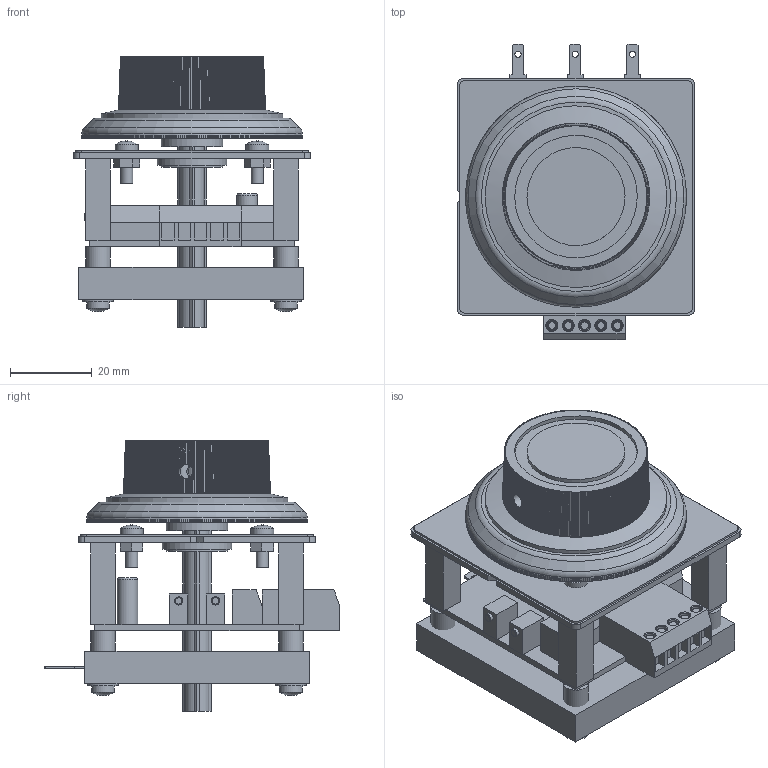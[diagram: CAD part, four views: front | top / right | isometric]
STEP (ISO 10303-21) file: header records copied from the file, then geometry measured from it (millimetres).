
FILE_DESCRIPTION(/* description */ ('HPF00-0-1-0'),/* implementation_level */ '2;1');
FILE_NAME(/* name */ 'C:\Users\CAD-3\Desktop\9400.00.522_HPF00-0-1-0_with_MR265.stp',/* time_stamp */ '2019-04-26T07:20:55+02:00',/* author */ ('CAD-3'),/* organization */ (''),/* preprocessor_version */ 'ST-DEVELOPER v17',/* originating_system */ 'Autodesk Inventor 2018',/* authorisation */ '');
FILE_SCHEMA (('AUTOMOTIVE_DESIGN { 1 0 10303 214 3 1 1 }'));
Products named in the file (16): 9400.00.522_HPF00-0-1-0_with_MR265; 5926.01.202; 5971.00.101; 0311.10.054; 6099.08.563; 6099.08.562; 6099.00.229a; 0306.06.035; 6099.22.399; 5915.11.701; 0501.24.035; 0306.06.037; 6099.21.077; 5912.09.200; 6099.00.702; 6099.07.765_Drehknopf
Assembly tree (30 placements, depth 2):
  9400.00.522_HPF00-0-1-0_with_MR265
    5926.01.202
    5971.00.101  x4
    0311.10.054  x4
    6099.08.563
    6099.08.562
    6099.00.229a
    0306.06.035  x4
    6099.22.399
    5915.11.701  x4
    0501.24.035
    0306.06.037  x4
    6099.21.077
    5912.09.200
    6099.00.702
    6099.07.765_Drehknopf
Bounding box: 58 x 72.42 x 66.2 mm (x, y, z)
Volume: 57954.4 mm3; surface area: 53426.7 mm2
Topology: 30 solids, 30 shells, 3341 faces, 9193 edges, 5965 vertices
Faces by surface type: plane 2238, cone 546, cylinder 532, torus 17, sphere 8
Full cylindrical faces by diameter (mm): 1.5 x3, 2 x2, 2.2 x5, 2.459 x8, 2.5 x8, 2.551 x5, 3 x12, 3.2 x10, 3.5 x6, 3.8 x4, 3.9 x1, 4 x2, 4.5 x6, 4.8 x4, 5 x1, 5.6 x8, 6 x6, 7 x1, 7.5 x4, 8 x1, 10 x2, 12 x1, 12.3 x1, 15 x4, 16 x1, 17 x1, 17.2 x1, 22 x1, 24 x1, 30 x1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
Entity records: 102577 total; most frequent: DIRECTION 18260, CARTESIAN_POINT 18028, ORIENTED_EDGE 17522, EDGE_CURVE 8761, AXIS2_PLACEMENT_3D 6366, VERTEX_POINT 5686, LINE 5528, VECTOR 5528
